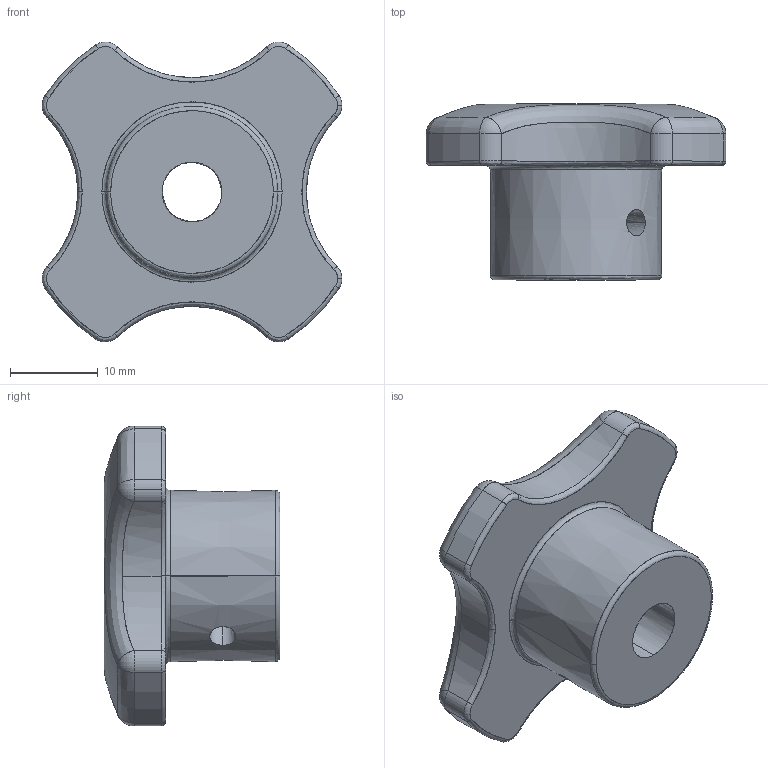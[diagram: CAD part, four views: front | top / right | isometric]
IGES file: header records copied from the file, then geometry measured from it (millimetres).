
Start section: SolidWorks IGES file using analytic representation for surfaces
Global section: file name: C:\Projetos\13.20002.IGS; native system: SolidWorks 2015; preprocessor: SolidWorks 2015; author: Ricardo; date: 171003.115205; units: millimetre
Bounding box: 34.12 x 20 x 34.12 mm (x, y, z)
Surface area: 3733.2 mm2 (no closed solid volume)
Topology: 0 solids, 0 shells, 76 faces, 1022 edges, 1018 vertices
Faces by surface type: revolution 39, bspline 37
